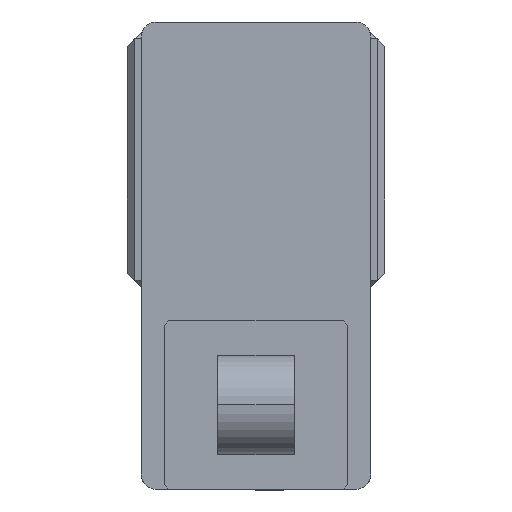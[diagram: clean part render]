
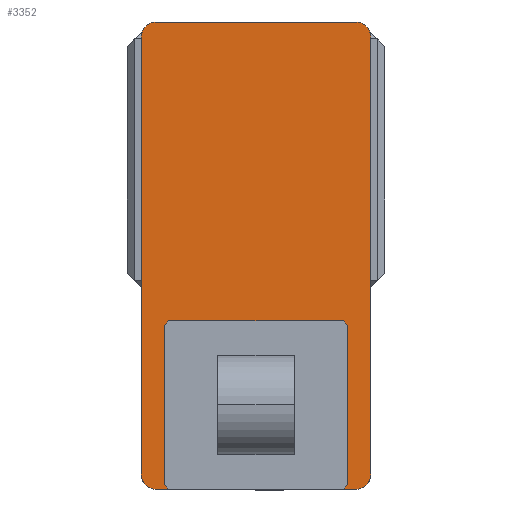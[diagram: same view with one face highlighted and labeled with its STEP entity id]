
A CAD part, left-side view. The second image highlights one B-rep face of the part: STEP entity #3352.
In plain terms, the highlighted planar face has unit normal (-1, 0, 0) as drawn and (0, 0, 1) by its records, which use the part's own axes.
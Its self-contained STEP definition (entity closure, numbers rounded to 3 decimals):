
#142 = CARTESIAN_POINT ( 'NONE',  ( -75., -152.5, 105. ) ) ;
#178 = VERTEX_POINT ( 'NONE', #871 ) ;
#200 = CARTESIAN_POINT ( 'NONE',  ( 65., 142.5, 105. ) ) ;
#602 = CARTESIAN_POINT ( 'NONE',  ( 65., -142.5, 105. ) ) ;
#629 = EDGE_CURVE ( 'NONE', #7118, #21057, #8718, .T. ) ;
#871 = CARTESIAN_POINT ( 'NONE',  ( -65., 152.5, 105. ) ) ;
#1493 = CARTESIAN_POINT ( 'NONE',  ( -75., 152.5, 105. ) ) ;
#1581 = CARTESIAN_POINT ( 'NONE',  ( 75., 142.5, 105. ) ) ;
#1582 = FACE_OUTER_BOUND ( 'NONE', #13257, .T. ) ;
#2009 = DIRECTION ( 'NONE',  ( 1., 0., 0. ) ) ;
#2407 = VERTEX_POINT ( 'NONE', #5572 ) ;
#2422 = DIRECTION ( 'NONE',  ( 1., 0., 0. ) ) ;
#2683 = ORIENTED_EDGE ( 'NONE', *, *, #7957, .T. ) ;
#2946 = VERTEX_POINT ( 'NONE', #16748 ) ;
#3352 = ADVANCED_FACE ( 'NONE', ( #1582 ), #15595, .T. ) ;
#3716 = ORIENTED_EDGE ( 'NONE', *, *, #22782, .T. ) ;
#3777 = CARTESIAN_POINT ( 'NONE',  ( 65., 152.5, 105. ) ) ;
#4184 = AXIS2_PLACEMENT_3D ( 'NONE', #5829, #18324, #7587 ) ;
#4649 = CARTESIAN_POINT ( 'NONE',  ( -75., 152.5, 105. ) ) ;
#4890 = CARTESIAN_POINT ( 'NONE',  ( 0., 0., 105. ) ) ;
#5324 = DIRECTION ( 'NONE',  ( 0., 0., 1. ) ) ;
#5572 = CARTESIAN_POINT ( 'NONE',  ( 75., -142.5, 105. ) ) ;
#5778 = ORIENTED_EDGE ( 'NONE', *, *, #13673, .T. ) ;
#5829 = CARTESIAN_POINT ( 'NONE',  ( -65., 142.5, 105. ) ) ;
#6076 = VERTEX_POINT ( 'NONE', #1581 ) ;
#6384 = EDGE_CURVE ( 'NONE', #21781, #178, #16823, .T. ) ;
#6485 = VECTOR ( 'NONE', #15809, 1000. ) ;
#6688 = DIRECTION ( 'NONE',  ( 0., 0., 1. ) ) ;
#6912 = CARTESIAN_POINT ( 'NONE',  ( -65., -152.5, 105. ) ) ;
#7118 = VERTEX_POINT ( 'NONE', #6912 ) ;
#7217 = ORIENTED_EDGE ( 'NONE', *, *, #7827, .T. ) ;
#7587 = DIRECTION ( 'NONE',  ( 1., 0., 0. ) ) ;
#7827 = EDGE_CURVE ( 'NONE', #6076, #21781, #14221, .T. ) ;
#7861 = VECTOR ( 'NONE', #9932, 1000. ) ;
#7957 = EDGE_CURVE ( 'NONE', #21057, #2407, #12529, .T. ) ;
#8622 = LINE ( 'NONE', #13643, #13936 ) ;
#8718 = LINE ( 'NONE', #142, #18027 ) ;
#9669 = ORIENTED_EDGE ( 'NONE', *, *, #11913, .T. ) ;
#9932 = DIRECTION ( 'NONE',  ( -1., 0., 0. ) ) ;
#10281 = CARTESIAN_POINT ( 'NONE',  ( 65., -152.5, 105. ) ) ;
#11913 = EDGE_CURVE ( 'NONE', #16306, #2946, #15967, .T. ) ;
#12529 = CIRCLE ( 'NONE', #14973, 10. ) ;
#12532 = AXIS2_PLACEMENT_3D ( 'NONE', #200, #12692, #2009 ) ;
#12584 = EDGE_CURVE ( 'NONE', #178, #16306, #13967, .T. ) ;
#12692 = DIRECTION ( 'NONE',  ( 0., 0., 1. ) ) ;
#13110 = DIRECTION ( 'NONE',  ( 0., 0., 1. ) ) ;
#13215 = ORIENTED_EDGE ( 'NONE', *, *, #12584, .T. ) ;
#13257 = EDGE_LOOP ( 'NONE', ( #20324, #2683, #3716, #7217, #16373, #13215, #9669, #5778 ) ) ;
#13643 = CARTESIAN_POINT ( 'NONE',  ( 75., 152.5, 105. ) ) ;
#13673 = EDGE_CURVE ( 'NONE', #2946, #7118, #21841, .T. ) ;
#13936 = VECTOR ( 'NONE', #15453, 1000. ) ;
#13967 = CIRCLE ( 'NONE', #4184, 10. ) ;
#14221 = CIRCLE ( 'NONE', #12532, 10. ) ;
#14973 = AXIS2_PLACEMENT_3D ( 'NONE', #602, #13110, #2422 ) ;
#15453 = DIRECTION ( 'NONE',  ( 0., 1., 0. ) ) ;
#15595 = PLANE ( 'NONE',  #16034 ) ;
#15809 = DIRECTION ( 'NONE',  ( 0., -1., 0. ) ) ;
#15967 = LINE ( 'NONE', #1493, #6485 ) ;
#16016 = CARTESIAN_POINT ( 'NONE',  ( -65., -142.5, 105. ) ) ;
#16034 = AXIS2_PLACEMENT_3D ( 'NONE', #4890, #6688, #19217 ) ;
#16306 = VERTEX_POINT ( 'NONE', #16743 ) ;
#16373 = ORIENTED_EDGE ( 'NONE', *, *, #6384, .T. ) ;
#16743 = CARTESIAN_POINT ( 'NONE',  ( -75., 142.5, 105. ) ) ;
#16748 = CARTESIAN_POINT ( 'NONE',  ( -75., -142.5, 105. ) ) ;
#16823 = LINE ( 'NONE', #4649, #7861 ) ;
#17832 = DIRECTION ( 'NONE',  ( 1., 0., 0. ) ) ;
#18027 = VECTOR ( 'NONE', #18078, 1000. ) ;
#18078 = DIRECTION ( 'NONE',  ( 1., 0., 0. ) ) ;
#18324 = DIRECTION ( 'NONE',  ( 0., 0., 1. ) ) ;
#19217 = DIRECTION ( 'NONE',  ( 1., 0., 0. ) ) ;
#19314 = AXIS2_PLACEMENT_3D ( 'NONE', #16016, #5324, #17832 ) ;
#20324 = ORIENTED_EDGE ( 'NONE', *, *, #629, .T. ) ;
#21057 = VERTEX_POINT ( 'NONE', #10281 ) ;
#21781 = VERTEX_POINT ( 'NONE', #3777 ) ;
#21841 = CIRCLE ( 'NONE', #19314, 10. ) ;
#22782 = EDGE_CURVE ( 'NONE', #2407, #6076, #8622, .T. ) ;
